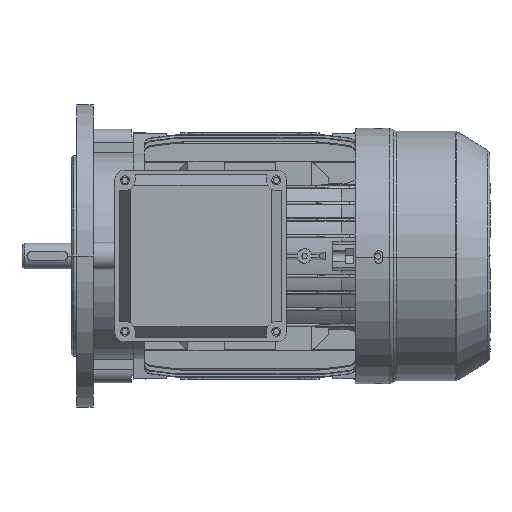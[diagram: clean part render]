
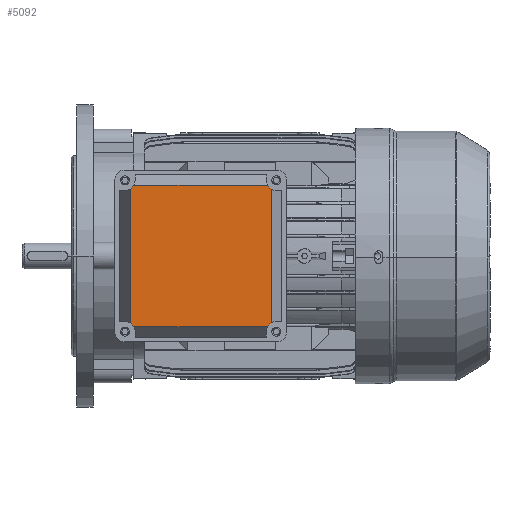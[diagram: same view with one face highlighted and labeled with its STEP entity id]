
A CAD part, left-side view. The second image highlights one B-rep face of the part: STEP entity #5092.
In plain terms, the highlighted planar face has unit normal (-1, 0, 0) as drawn and (0, -1, 0) by its records, which use the part's own axes.
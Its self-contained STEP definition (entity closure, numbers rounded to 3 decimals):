
#5092 = ADVANCED_FACE ( 'NONE', ( #15749 ), #37336, .T. ) ;
#8441 = EDGE_CURVE ( 'NONE', #30651, #30656, #14587, .T. ) ;
#8458 = EDGE_CURVE ( 'NONE', #30656, #30652, #14619, .T. ) ;
#8461 = EDGE_CURVE ( 'NONE', #30652, #30665, #14621, .T. ) ;
#8473 = EDGE_CURVE ( 'NONE', #30665, #30664, #14616, .T. ) ;
#8477 = EDGE_CURVE ( 'NONE', #30664, #30667, #14630, .T. ) ;
#8491 = EDGE_CURVE ( 'NONE', #30667, #30661, #14646, .T. ) ;
#8495 = EDGE_CURVE ( 'NONE', #30661, #30666, #14643, .T. ) ;
#8504 = EDGE_CURVE ( 'NONE', #30666, #30651, #14660, .T. ) ;
#11912 = AXIS2_PLACEMENT_3D ( 'NONE', #51452, #51453, #51454 ) ;
#11916 = AXIS2_PLACEMENT_3D ( 'NONE', #51489, #51490, #51491 ) ;
#11930 = AXIS2_PLACEMENT_3D ( 'NONE', #51527, #51528, #51529 ) ;
#11934 = AXIS2_PLACEMENT_3D ( 'NONE', #51543, #51544, #51545 ) ;
#14587 = LINE ( 'NONE', #51422, #14605 ) ;
#14605 = VECTOR ( 'NONE', #51383, 1000. ) ;
#14616 = CIRCLE ( 'NONE', #11916, 5.5 ) ;
#14619 = CIRCLE ( 'NONE', #11912, 5.5 ) ;
#14621 = LINE ( 'NONE', #51448, #14623 ) ;
#14623 = VECTOR ( 'NONE', #51457, 1000. ) ;
#14630 = LINE ( 'NONE', #51492, #14634 ) ;
#14634 = VECTOR ( 'NONE', #51508, 1000. ) ;
#14643 = LINE ( 'NONE', #51525, #14656 ) ;
#14646 = CIRCLE ( 'NONE', #11930, 5.5 ) ;
#14656 = VECTOR ( 'NONE', #51526, 1000. ) ;
#14660 = CIRCLE ( 'NONE', #11934, 5.5 ) ;
#15749 = FACE_OUTER_BOUND ( 'NONE', #31409, .T. ) ;
#28275 = CARTESIAN_POINT ( 'NONE',  ( 36.751, -7.5, 38.726 ) ) ;
#28276 = CARTESIAN_POINT ( 'NONE',  ( -38.726, -7.5, 36.751 ) ) ;
#28279 = CARTESIAN_POINT ( 'NONE',  ( -36.751, -7.5, 38.726 ) ) ;
#28283 = CARTESIAN_POINT ( 'NONE',  ( 38.726, -7.5, -36.751 ) ) ;
#28286 = CARTESIAN_POINT ( 'NONE',  ( -36.751, -7.5, -38.726 ) ) ;
#28287 = CARTESIAN_POINT ( 'NONE',  ( -38.726, -7.5, -36.751 ) ) ;
#28288 = CARTESIAN_POINT ( 'NONE',  ( 38.726, -7.5, 36.751 ) ) ;
#28289 = CARTESIAN_POINT ( 'NONE',  ( 36.751, -7.5, -38.726 ) ) ;
#30651 = VERTEX_POINT ( 'NONE', #28275 ) ;
#30652 = VERTEX_POINT ( 'NONE', #28276 ) ;
#30656 = VERTEX_POINT ( 'NONE', #28279 ) ;
#30661 = VERTEX_POINT ( 'NONE', #28283 ) ;
#30664 = VERTEX_POINT ( 'NONE', #28286 ) ;
#30665 = VERTEX_POINT ( 'NONE', #28287 ) ;
#30666 = VERTEX_POINT ( 'NONE', #28288 ) ;
#30667 = VERTEX_POINT ( 'NONE', #28289 ) ;
#31409 = EDGE_LOOP ( 'NONE', ( #66756, #66758, #66760, #66761, #66763, #66765, #66767, #66769 ) ) ;
#36744 = AXIS2_PLACEMENT_3D ( 'NONE', #37342, #37346, #37347 ) ;
#37336 = PLANE ( 'NONE',  #36744 ) ;
#37342 = CARTESIAN_POINT ( 'NONE',  ( -42., -7.5, -42. ) ) ;
#37346 = DIRECTION ( 'NONE',  ( 0., -1., 0. ) ) ;
#37347 = DIRECTION ( 'NONE',  ( 0., 0., -1. ) ) ;
#51383 = DIRECTION ( 'NONE',  ( -1., 0., 0. ) ) ;
#51422 = CARTESIAN_POINT ( 'NONE',  ( -42., -7.5, 38.726 ) ) ;
#51448 = CARTESIAN_POINT ( 'NONE',  ( -38.726, -7.5, -42. ) ) ;
#51452 = CARTESIAN_POINT ( 'NONE',  ( -41.5, -7.5, 41.5 ) ) ;
#51453 = DIRECTION ( 'NONE',  ( 0., 1., 0. ) ) ;
#51454 = DIRECTION ( 'NONE',  ( 0., 0., 1. ) ) ;
#51457 = DIRECTION ( 'NONE',  ( 0., 0., -1. ) ) ;
#51489 = CARTESIAN_POINT ( 'NONE',  ( -41.5, -7.5, -41.5 ) ) ;
#51490 = DIRECTION ( 'NONE',  ( 0., 1., 0. ) ) ;
#51491 = DIRECTION ( 'NONE',  ( 0., 0., 1. ) ) ;
#51492 = CARTESIAN_POINT ( 'NONE',  ( -42., -7.5, -38.726 ) ) ;
#51508 = DIRECTION ( 'NONE',  ( 1., 0., 0. ) ) ;
#51525 = CARTESIAN_POINT ( 'NONE',  ( 38.726, -7.5, -42. ) ) ;
#51526 = DIRECTION ( 'NONE',  ( 0., 0., 1. ) ) ;
#51527 = CARTESIAN_POINT ( 'NONE',  ( 41.5, -7.5, -41.5 ) ) ;
#51528 = DIRECTION ( 'NONE',  ( 0., 1., 0. ) ) ;
#51529 = DIRECTION ( 'NONE',  ( 0., 0., 1. ) ) ;
#51543 = CARTESIAN_POINT ( 'NONE',  ( 41.5, -7.5, 41.5 ) ) ;
#51544 = DIRECTION ( 'NONE',  ( 0., 1., 0. ) ) ;
#51545 = DIRECTION ( 'NONE',  ( 0., 0., 1. ) ) ;
#66756 = ORIENTED_EDGE ( 'NONE', *, *, #8495, .T. ) ;
#66758 = ORIENTED_EDGE ( 'NONE', *, *, #8504, .T. ) ;
#66760 = ORIENTED_EDGE ( 'NONE', *, *, #8441, .T. ) ;
#66761 = ORIENTED_EDGE ( 'NONE', *, *, #8458, .T. ) ;
#66763 = ORIENTED_EDGE ( 'NONE', *, *, #8461, .T. ) ;
#66765 = ORIENTED_EDGE ( 'NONE', *, *, #8473, .T. ) ;
#66767 = ORIENTED_EDGE ( 'NONE', *, *, #8477, .T. ) ;
#66769 = ORIENTED_EDGE ( 'NONE', *, *, #8491, .T. ) ;
